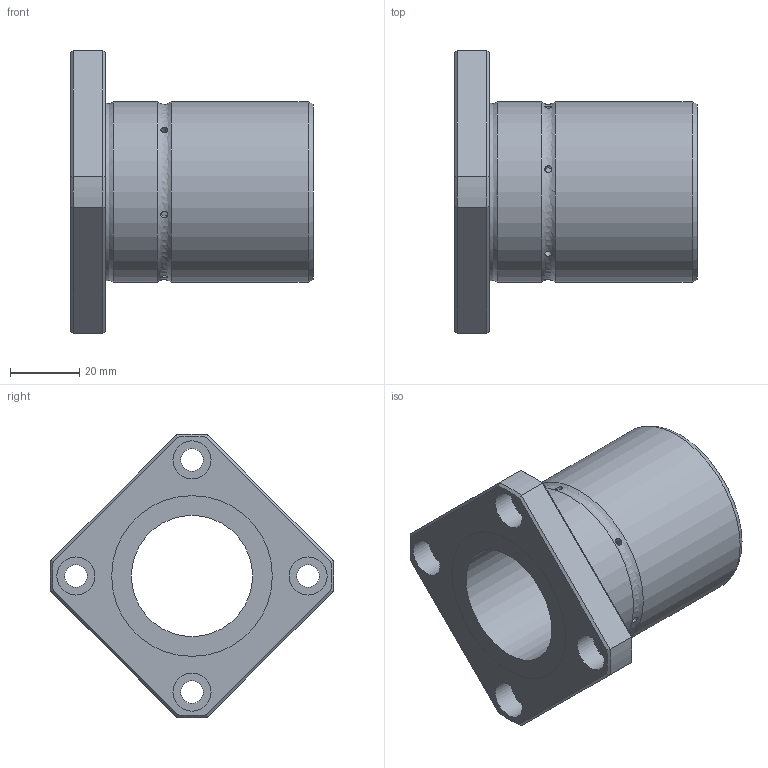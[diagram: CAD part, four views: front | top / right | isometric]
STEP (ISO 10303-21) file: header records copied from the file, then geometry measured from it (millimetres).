
FILE_DESCRIPTION((''),'2;1');
FILE_NAME('D:\製品 (図面)\カタログ用3D\リニアベアリング関連\STEP形式\LFK-OH\LFK35-OH.stp','2010-06-04T08:56:53',('Tsuchiya'),(''),'Autodesk Inventor 10','Autodesk Inventor 10','');
FILE_SCHEMA(('AUTOMOTIVE_DESIGN { 1 0 10303 214 1 1 1 1 }'));
Length unit declared in the file: millimetre
Products named in the file (1): LFK35-OH
Bounding box: 70 x 81.94 x 81.94 mm (x, y, z)
Volume: 96487.3 mm3; surface area: 26850.6 mm2
Topology: 1 solids, 1 shells, 61 faces, 124 edges, 78 vertices
Faces by surface type: cylinder 23, plane 21, bspline 8, cone 8, torus 1
Full cylindrical faces by diameter (mm): 6.6 x4, 11 x4, 35 x1, 46.4 x2, 52 x2
Entity records: 2221 total; most frequent: CARTESIAN_POINT 1070, DIRECTION 220, ORIENTED_EDGE 192, EDGE_LOOP 106, AXIS2_PLACEMENT_3D 98, EDGE_CURVE 96, VERTEX_POINT 72, FACE_OUTER_BOUND 61
